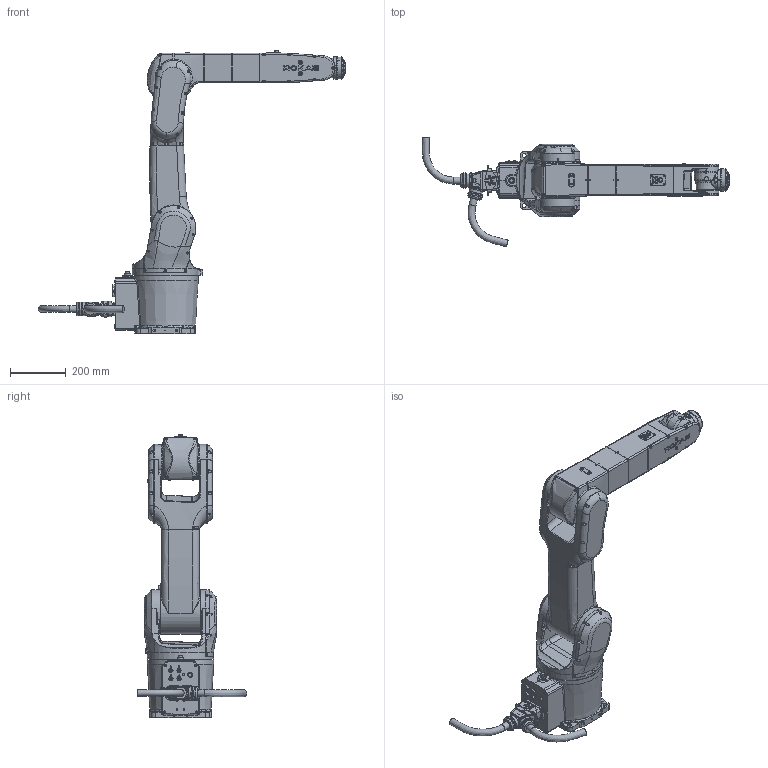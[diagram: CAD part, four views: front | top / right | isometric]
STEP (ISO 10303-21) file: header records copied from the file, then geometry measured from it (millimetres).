
FILE_DESCRIPTION(/* description */ (''),/* implementation_level */ '2;1');
FILE_NAME(/* name */ 'NB10s-1011 简化模型A.stp',/* time_stamp */ '2025-04-30T16:56:29+08:00',/* author */ (''),/* organization */ (''),/* preprocessor_version */ 'ST-DEVELOPER v16',/* originating_system */ 'SIEMENS PLM Software NX 10.0',/* authorisation */ '');
FILE_SCHEMA (('CONFIG_CONTROL_DESIGN'));
Length unit declared in the file: millimetre
Products named in the file (10): NB10-logo; NB10-3Dwork-C; NB10-yao-A; NB10-xiaobihou-A; NB10-shuchu-A; NB10-shouwan-A; NB10-dabi-C; NB10-base-A; NB10-xiaobiqian-C_MODEL; NB10s-1011
Assembly tree (10 placements, depth 3):
  NB10s-1011
    NB10-base-A
    NB10-dabi-C
    NB10-shouwan-A
    NB10-shuchu-A
    NB10-xiaobihou-A
    NB10-xiaobiqian-C_MODEL
      NB10-logo  x2
    NB10-yao-A
    NB10-3Dwork-C
Bounding box: 1103.63 x 394.43 x 1019.15 mm (x, y, z)
Volume: 36346395.2 mm3; surface area: 1586455.2 mm2
Topology: 23 solids, 33 shells, 3552 faces, 8468 edges, 5123 vertices
Faces by surface type: plane 1188, cylinder 892, bspline 712, torus 284, cone 279, extrusion 163, sphere 34
Full cylindrical faces by diameter (mm): 3.3 x8, 4.2 x12, 4.75 x4, 4.826 x1, 5 x3, 5.1 x4, 5.13 x8, 5.5 x83, 6 x2, 6.725 x4, 7 x21, 8.5 x10, 9.5 x3, 13 x1, 13.5 x4, 14 x1, 15 x4, 18.5 x1, 20 x1, 22 x1, 25 x2, 40 x1, 41.226 x2, 47.5 x2, 49.55 x4, 50 x3, 55 x2, 59 x2, 65 x1, 68 x1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
Entity records: 142438 total; most frequent: CARTESIAN_POINT 68897, ORIENTED_EDGE 15486, DIRECTION 13761, EDGE_CURVE 7743, AXIS2_PLACEMENT_3D 5497, VERTEX_POINT 4877, EDGE_LOOP 4058, ADVANCED_FACE 3487
